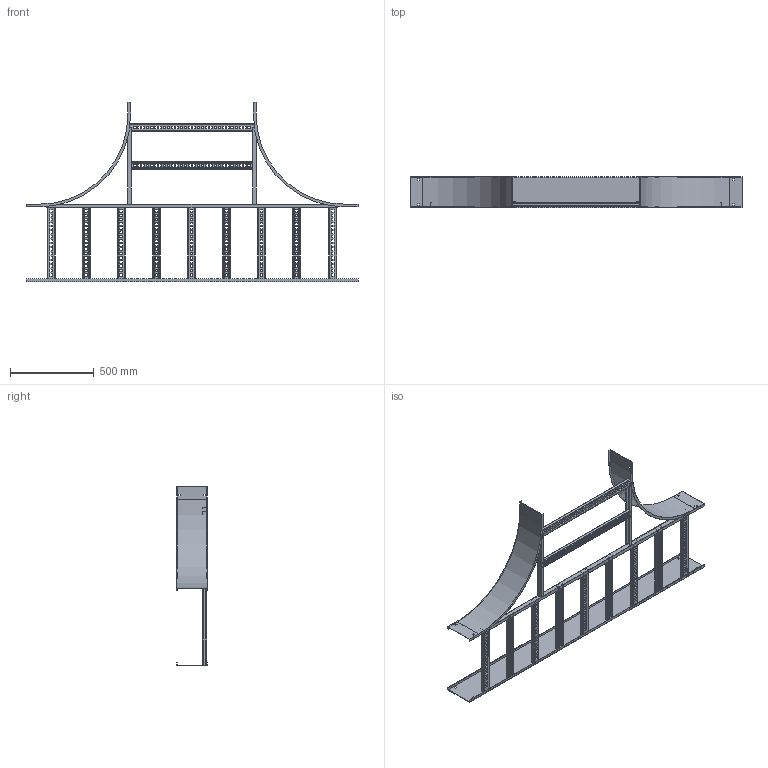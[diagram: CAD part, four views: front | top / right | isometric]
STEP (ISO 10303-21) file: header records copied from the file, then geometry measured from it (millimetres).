
FILE_DESCRIPTION((''),'2;1');
FILE_NAME('AUF71830LET24_ASM','2010-01-28T',('erouzier'),(''),'PRO/ENGINEER BY PARAMETRIC TECHNOLOGY CORPORATION, 2008510','PRO/ENGINEER BY PARAMETRIC TECHNOLOGY CORPORATION, 2008510','');
FILE_SCHEMA(('CONFIG_CONTROL_DESIGN'));
Length unit declared in the file: inch
Products named in the file (17): CDS001322-7-90-21-I; CDS013844-7-78; CDS000495_GEN_AF9; CDS002159L18-P_AF14; CDS002159L18-P_AF15; CDS002159L18-P_AF16; CDS002159L18-P_AF17; CDS002159L18-P_AF18; CDS002159L18-P_AF19; CDS002159L18-P_AF20; CDS002159L18-P; CDS002159L18-P_AF21; CDS000495_GEN_AF10; CDS000495_GEN_AF11; CDS002159L30-P_AF2; CDS002159L30-P_AF3; AUF71830LET24_ASM
Assembly tree (17 placements, depth 2):
  AUF71830LET24_ASM
    CDS001322-7-90-21-I  x2
    CDS013844-7-78
    CDS000495_GEN_AF9
    CDS002159L18-P_AF14
    CDS002159L18-P_AF15
    CDS002159L18-P_AF16
    CDS002159L18-P_AF17
    CDS002159L18-P_AF18
    CDS002159L18-P_AF19
    CDS002159L18-P_AF20
    CDS002159L18-P
    CDS002159L18-P_AF21
    CDS000495_GEN_AF10
    CDS000495_GEN_AF11
    CDS002159L30-P_AF2
    CDS002159L30-P_AF3
Bounding box: 1986.79 x 183.9 x 1072.39 mm (x, y, z)
Volume: 3499619.7 mm3; surface area: 3310275.9 mm2
Topology: 17 solids, 17 shells, 2054 faces, 6060 edges, 4040 vertices
Faces by surface type: plane 1125, cylinder 929
Entity records: 69027 total; most frequent: CARTESIAN_POINT 11994, ORIENTED_EDGE 11928, DIRECTION 11922, EDGE_CURVE 5964, VECTOR 4114, LINE 4114, VERTEX_POINT 3976, AXIS2_PLACEMENT_3D 3904
